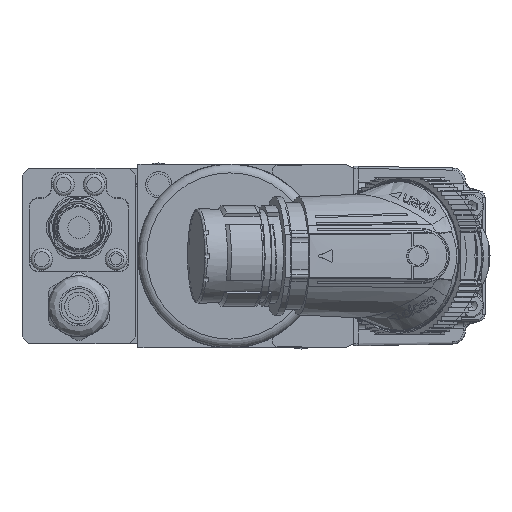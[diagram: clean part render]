
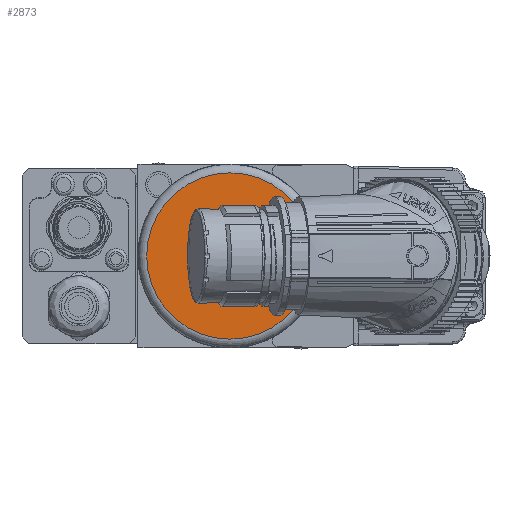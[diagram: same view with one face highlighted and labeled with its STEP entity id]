
A CAD part, left-side view. The second image highlights one B-rep face of the part: STEP entity #2873.
In plain terms, the highlighted planar face has unit normal (-1, 0, 0).
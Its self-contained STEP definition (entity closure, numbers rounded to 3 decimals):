
#968 = CARTESIAN_POINT ( 'NONE',  ( -279., 0., 0. ) ) ;
#1388 = PLANE ( 'NONE',  #55339 ) ;
#2873 = ADVANCED_FACE ( 'NONE', ( #74188 ), #1388, .T. ) ;
#16513 = DIRECTION ( 'NONE',  ( -1., 0., 0. ) ) ;
#27633 = EDGE_LOOP ( 'NONE', ( #73001 ) ) ;
#47701 = EDGE_CURVE ( 'NONE', #90214, #90214, #80164, .T. ) ;
#52049 = CARTESIAN_POINT ( 'NONE',  ( -279., 0., 19. ) ) ;
#52989 = DIRECTION ( 'NONE',  ( 0., 0., 1. ) ) ;
#55339 = AXIS2_PLACEMENT_3D ( 'NONE', #968, #56082, #52989 ) ;
#56082 = DIRECTION ( 'NONE',  ( -1., 0., 0. ) ) ;
#58146 = CARTESIAN_POINT ( 'NONE',  ( -279., 0., 0. ) ) ;
#60885 = AXIS2_PLACEMENT_3D ( 'NONE', #58146, #16513, #65198 ) ;
#65198 = DIRECTION ( 'NONE',  ( 0., 0., 1. ) ) ;
#73001 = ORIENTED_EDGE ( 'NONE', *, *, #47701, .T. ) ;
#74188 = FACE_OUTER_BOUND ( 'NONE', #27633, .T. ) ;
#80164 = CIRCLE ( 'NONE', #60885, 19. ) ;
#90214 = VERTEX_POINT ( 'NONE', #52049 ) ;
